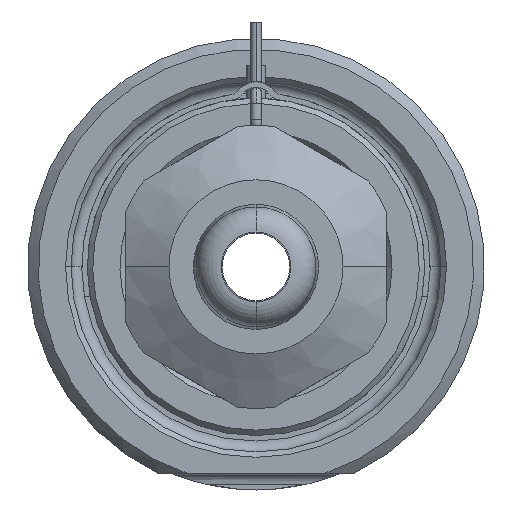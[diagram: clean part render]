
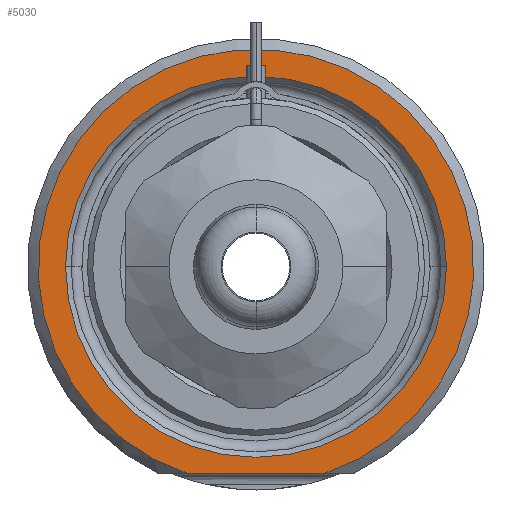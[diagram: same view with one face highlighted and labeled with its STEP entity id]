
A CAD part, front view. The second image highlights one B-rep face of the part: STEP entity #5030.
In plain terms, the highlighted planar face has unit normal (0, -1, 0).
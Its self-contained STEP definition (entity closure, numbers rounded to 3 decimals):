
#1522=DIRECTION('',(1.,0.,0.));
#1523=VECTOR('',#1522,12.49);
#1524=CARTESIAN_POINT('',(-6.245,0.,-19.));
#1525=LINE('',#1524,#1523);
#1526=CARTESIAN_POINT('',(0.,0.,0.));
#1527=DIRECTION('',(0.,1.,0.));
#1528=DIRECTION('',(-1.,0.,0.));
#1529=AXIS2_PLACEMENT_3D('',#1526,#1527,#1528);
#1531=CARTESIAN_POINT('',(0.,0.,0.));
#1532=DIRECTION('',(0.,1.,0.));
#1533=DIRECTION('',(1.,0.,0.));
#1534=AXIS2_PLACEMENT_3D('',#1531,#1532,#1533);
#1640=CARTESIAN_POINT('',(0.,0.,0.));
#1641=DIRECTION('',(0.,-1.,0.));
#1642=DIRECTION('',(0.312,0.,-0.95));
#1643=AXIS2_PLACEMENT_3D('',#1640,#1641,#1642);
#2730=CARTESIAN_POINT('',(-17.5,0.,0.));
#2731=CARTESIAN_POINT('',(17.5,0.,0.));
#2732=VERTEX_POINT('',#2730);
#2733=VERTEX_POINT('',#2731);
#2774=CARTESIAN_POINT('',(-6.245,0.,-19.));
#2775=CARTESIAN_POINT('',(6.245,0.,-19.));
#2776=VERTEX_POINT('',#2774);
#2777=VERTEX_POINT('',#2775);
#5014=CARTESIAN_POINT('',(0.,0.,0.));
#5015=DIRECTION('',(0.,-1.,0.));
#5016=DIRECTION('',(1.,0.,0.));
#5017=AXIS2_PLACEMENT_3D('',#5014,#5015,#5016);
#5018=PLANE('',#5017);
#5020=ORIENTED_EDGE('',*,*,#5019,.F.);
#5022=ORIENTED_EDGE('',*,*,#5021,.F.);
#5023=EDGE_LOOP('',(#5020,#5022));
#5024=FACE_OUTER_BOUND('',#5023,.F.);
#5025=ORIENTED_EDGE('',*,*,#5004,.F.);
#5027=ORIENTED_EDGE('',*,*,#5026,.F.);
#5028=EDGE_LOOP('',(#5025,#5027));
#5029=FACE_BOUND('',#5028,.F.);
#5030=ADVANCED_FACE('',(#5024,#5029),#5018,.T.);
#1530=CIRCLE('',#1529,17.5);
#1535=CIRCLE('',#1534,17.5);
#1644=CIRCLE('',#1643,20.);
#5004=EDGE_CURVE('',#2732,#2733,#1530,.T.);
#5019=EDGE_CURVE('',#2776,#2777,#1525,.T.);
#5021=EDGE_CURVE('',#2777,#2776,#1644,.T.);
#5026=EDGE_CURVE('',#2733,#2732,#1535,.T.);
